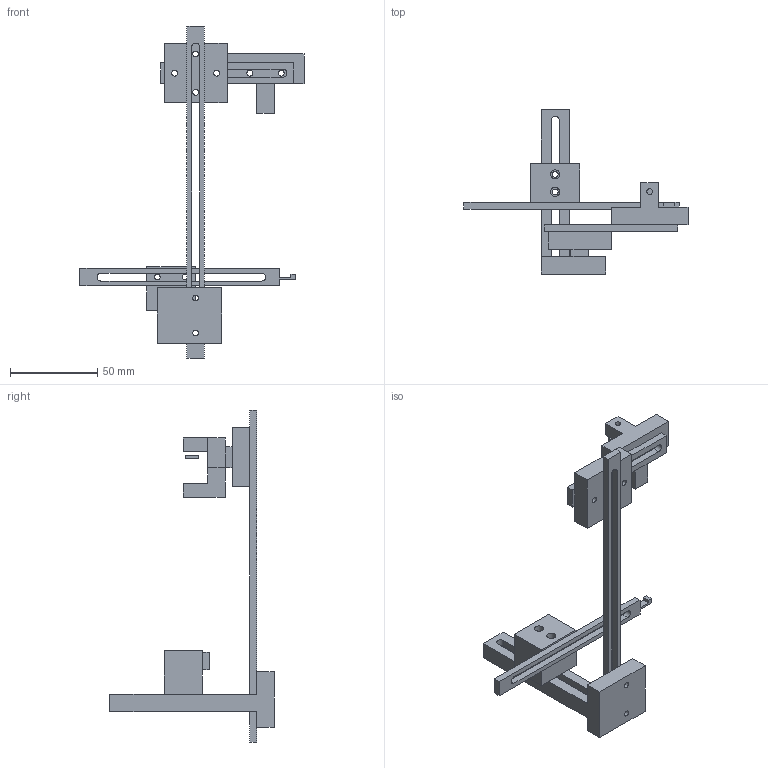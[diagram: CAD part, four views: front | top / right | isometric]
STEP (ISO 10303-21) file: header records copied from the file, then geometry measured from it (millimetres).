
FILE_DESCRIPTION(('Open CASCADE Model'),'2;1');
FILE_NAME('Open CASCADE Shape Model','2026-11-08T06:44:03',('Author'),( 'Open CASCADE'),'Open CASCADE STEP processor 7.8','Open CASCADE 7.8' ,'Unknown');
FILE_SCHEMA(('AUTOMOTIVE_DESIGN { 1 0 10303 214 1 1 1 1 }'));
Length unit declared in the file: millimetre
Products named in the file (9): L_printed_holder; 01_clamp_body_T14; 02_protective_pad; 03_horizontal_bar; 04_corner; 05_vertical_rail_190; 06_ribbed_depth_carriage; 07_cross_slide_carriage; 08_sliding_target_flag
Assembly tree (8 placements, depth 2):
  L_printed_holder
    01_clamp_body_T14
    02_protective_pad
    03_horizontal_bar
    04_corner
    05_vertical_rail_190
    06_ribbed_depth_carriage
    07_cross_slide_carriage
    08_sliding_target_flag
Bounding box: 128.2 x 94 x 190 mm (x, y, z)
Volume: 64554.4 mm3; surface area: 34391.8 mm2
Topology: 8 solids, 8 shells, 113 faces, 282 edges, 188 vertices
Faces by surface type: plane 87, cylinder 26
Full cylindrical faces by diameter (mm): 3.3 x13, 4.4 x1, 5.2 x4
Entity records: 7450 total; most frequent: CARTESIAN_POINT 1468, DIRECTION 1090, LINE 742, VECTOR 742, ORIENTED_EDGE 564, PCURVE 564, DEFINITIONAL_REPRESENTATION 564, EDGE_CURVE 282
